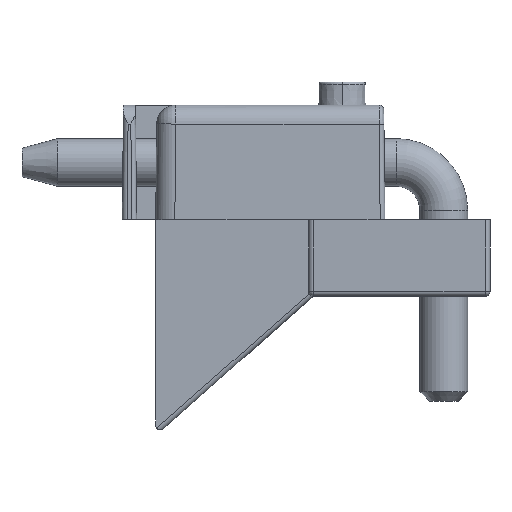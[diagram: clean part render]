
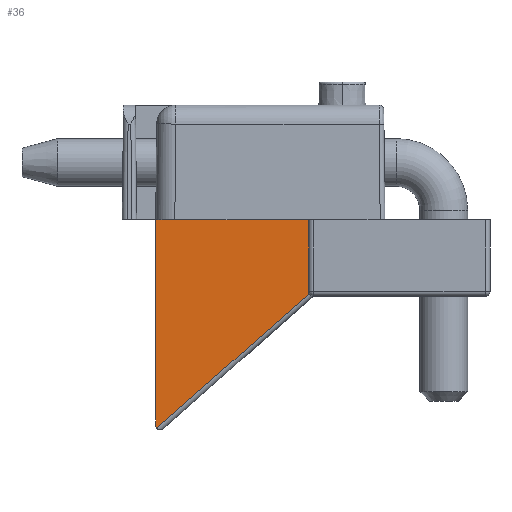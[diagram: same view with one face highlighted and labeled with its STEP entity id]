
A CAD part, left-side view. The second image highlights one B-rep face of the part: STEP entity #36.
In plain terms, the highlighted planar face has unit normal (-1, 0, -0.009).
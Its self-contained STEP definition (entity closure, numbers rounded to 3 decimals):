
#36 = ADVANCED_FACE ( 'NONE', ( #1426 ), #2711, .T. ) ;
#146 = VERTEX_POINT ( 'NONE', #1824 ) ;
#302 = VECTOR ( 'NONE', #460, 1000. ) ;
#339 = EDGE_CURVE ( 'NONE', #2699, #2705, #3914, .T. ) ;
#353 = ORIENTED_EDGE ( 'NONE', *, *, #2995, .T. ) ;
#460 = DIRECTION ( 'NONE',  ( 0.009, 0., -1. ) ) ;
#523 = CARTESIAN_POINT ( 'NONE',  ( -1.433, -4.019, -7.658 ) ) ;
#545 = CARTESIAN_POINT ( 'NONE',  ( -1.497, -12.348, -0.393 ) ) ;
#558 = VERTEX_POINT ( 'NONE', #1444 ) ;
#670 = CARTESIAN_POINT ( 'NONE',  ( -1.5, -12., 0. ) ) ;
#960 = VECTOR ( 'NONE', #3865, 1000. ) ;
#1017 = LINE ( 'NONE', #670, #960 ) ;
#1094 = VERTEX_POINT ( 'NONE', #1674 ) ;
#1185 = CARTESIAN_POINT ( 'NONE',  ( -1.5, -12., 0. ) ) ;
#1216 = CARTESIAN_POINT ( 'NONE',  ( -1.5, -4., 0. ) ) ;
#1426 = FACE_OUTER_BOUND ( 'NONE', #1628, .T. ) ;
#1444 = CARTESIAN_POINT ( 'NONE',  ( -1.433, -4.056, -7.73 ) ) ;
#1485 = CARTESIAN_POINT ( 'NONE',  ( -1.435, -4., -7.5 ) ) ;
#1491 = CARTESIAN_POINT ( 'NONE',  ( -1.312, 12., -21.49 ) ) ;
#1533 = CARTESIAN_POINT ( 'NONE',  ( -1.311, 11.999, -21.617 ) ) ;
#1538 = DIRECTION ( 'NONE',  ( -0.009, 0., 1. ) ) ;
#1626 = CARTESIAN_POINT ( 'NONE',  ( -1.5, 12., 0. ) ) ;
#1628 = EDGE_LOOP ( 'NONE', ( #4130, #2695, #1852, #353, #2637, #1744 ) ) ;
#1674 = CARTESIAN_POINT ( 'NONE',  ( -1.5, 12., 0. ) ) ;
#1744 = ORIENTED_EDGE ( 'NONE', *, *, #3999, .F. ) ;
#1753 = CARTESIAN_POINT ( 'NONE',  ( -1.434, -4., -7.58 ) ) ;
#1824 = CARTESIAN_POINT ( 'NONE',  ( -1.31, 11.872, -21.824 ) ) ;
#1845 = DIRECTION ( 'NONE',  ( -1., 0., -0.009 ) ) ;
#1852 = ORIENTED_EDGE ( 'NONE', *, *, #2026, .T. ) ;
#1863 = CARTESIAN_POINT ( 'NONE',  ( -1.435, -4., -7.5 ) ) ;
#1891 = LINE ( 'NONE', #1626, #2653 ) ;
#2026 = EDGE_CURVE ( 'NONE', #146, #558, #4073, .T. ) ;
#2102 = CARTESIAN_POINT ( 'NONE',  ( -1.433, -4.056, -7.73 ) ) ;
#2630 = VERTEX_POINT ( 'NONE', #1491 ) ;
#2637 = ORIENTED_EDGE ( 'NONE', *, *, #339, .F. ) ;
#2653 = VECTOR ( 'NONE', #2959, 1000. ) ;
#2695 = ORIENTED_EDGE ( 'NONE', *, *, #3950, .T. ) ;
#2699 = VERTEX_POINT ( 'NONE', #1216 ) ;
#2705 = VERTEX_POINT ( 'NONE', #1863 ) ;
#2711 = PLANE ( 'NONE',  #3320 ) ;
#2723 = CARTESIAN_POINT ( 'NONE',  ( -1.312, 12., -21.49 ) ) ;
#2769 = CARTESIAN_POINT ( 'NONE',  ( -1.31, 11.956, -21.728 ) ) ;
#2959 = DIRECTION ( 'NONE',  ( -0.009, 0., 1. ) ) ;
#2995 = EDGE_CURVE ( 'NONE', #558, #2705, #3635, .T. ) ;
#3068 = VECTOR ( 'NONE', #3752, 1000. ) ;
#3114 = CARTESIAN_POINT ( 'NONE',  ( -1.31, 11.872, -21.824 ) ) ;
#3320 = AXIS2_PLACEMENT_3D ( 'NONE', #1185, #1845, #1538 ) ;
#3344 = B_SPLINE_CURVE_WITH_KNOTS ( 'NONE', 3,
 ( #2723, #1533, #2769, #3114 ),
 .UNSPECIFIED., .F., .F.,
 ( 4, 4 ),
 ( 0., 1. ),
 .UNSPECIFIED. ) ;
#3472 = EDGE_CURVE ( 'NONE', #2630, #1094, #1891, .T. ) ;
#3635 =( BOUNDED_CURVE ( )  B_SPLINE_CURVE ( 3, ( #2102, #523, #1753, #1485 ),
 .UNSPECIFIED., .F., .T. ) 
 B_SPLINE_CURVE_WITH_KNOTS ( ( 4, 4 ),
 ( 4.235, 4.712 ),
 .UNSPECIFIED. ) 
 CURVE ( )  GEOMETRIC_REPRESENTATION_ITEM ( )  RATIONAL_B_SPLINE_CURVE ( ( 1., 0.981, 0.981, 1. ) ) 
 REPRESENTATION_ITEM ( '' )  );
#3650 = CARTESIAN_POINT ( 'NONE',  ( -1.43, -4., -8.062 ) ) ;
#3752 = DIRECTION ( 'NONE',  ( -0.006, -0.749, 0.663 ) ) ;
#3865 = DIRECTION ( 'NONE',  ( 0., -1., 0. ) ) ;
#3914 = LINE ( 'NONE', #3650, #302 ) ;
#3950 = EDGE_CURVE ( 'NONE', #2630, #146, #3344, .T. ) ;
#3999 = EDGE_CURVE ( 'NONE', #1094, #2699, #1017, .T. ) ;
#4073 = LINE ( 'NONE', #545, #3068 ) ;
#4130 = ORIENTED_EDGE ( 'NONE', *, *, #3472, .F. ) ;
